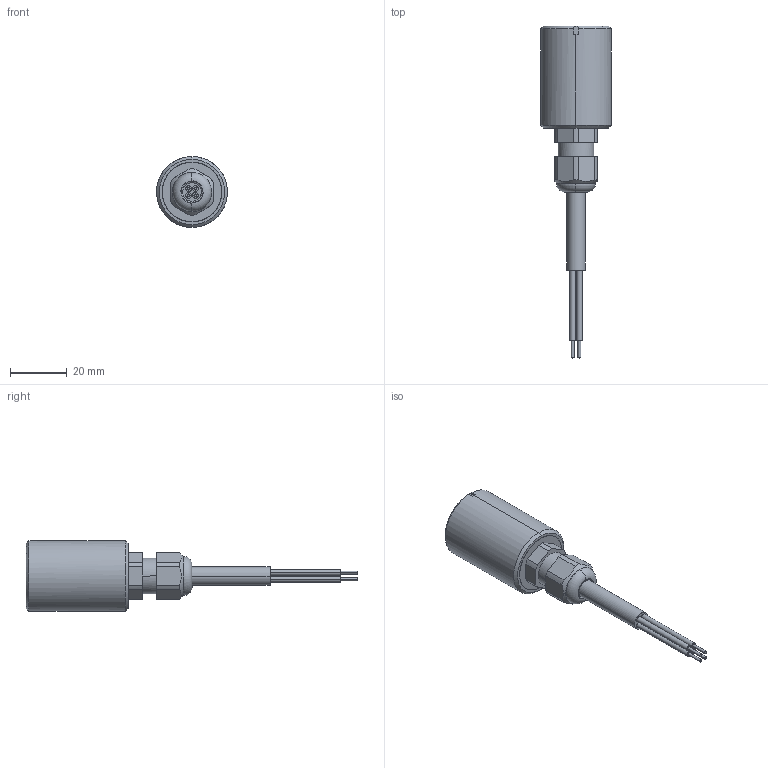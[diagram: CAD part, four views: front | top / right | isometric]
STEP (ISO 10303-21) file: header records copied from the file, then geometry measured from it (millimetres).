
FILE_DESCRIPTION (( 'STEP AP214' ), '1' );
FILE_NAME ('N250_N251_N255_N256.STEP', '2025-06-12T13:47:57', ( '' ), ( '' ), 'SwSTEP 2.0', 'SolidWorks 2025', '' );
FILE_SCHEMA (( 'AUTOMOTIVE_DESIGN' ));
Length unit declared in the file: millimetre
Products named in the file (11): N250_N251_N255_N256; CAVO PER SENSORI IN 3D DIAM 6.5-7; corpo5; CAVO PER SENSORI IN 3D DIAM 6.5-6; tappo5; CAVO PER SENSORI IN 3D DIAM 6.5-5; CAVO PER SENSORI IN 3D DIAM 6.5-3; CAVO PER SENSORI IN 3D DIAM 6.5; CAVO PER SENSORI IN 3D DIAM 6.5-4; pressa5; CAVO PER SENSORI IN 3D DIAM 6.5-2
Assembly tree (13 placements, depth 3):
  N250_N251_N255_N256
    corpo5
    pressa5
    CAVO PER SENSORI IN 3D DIAM 6.5
      CAVO PER SENSORI IN 3D DIAM 6.5-2  x4
      CAVO PER SENSORI IN 3D DIAM 6.5-3
      CAVO PER SENSORI IN 3D DIAM 6.5-4
      CAVO PER SENSORI IN 3D DIAM 6.5-5
      CAVO PER SENSORI IN 3D DIAM 6.5-6
      CAVO PER SENSORI IN 3D DIAM 6.5-7
    tappo5
Bounding box: 24.99 x 117 x 25 mm (x, y, z)
Volume: 23033.8 mm3; surface area: 8657.8 mm2
Topology: 12 solids, 12 shells, 141 faces, 321 edges, 211 vertices
Faces by surface type: plane 81, cylinder 26, bspline 24, torus 6, cone 4
Entity records: 5752 total; most frequent: CARTESIAN_POINT 2886, ORIENTED_EDGE 606, DIRECTION 344, EDGE_CURVE 303, VERTEX_POINT 199, B_SPLINE_CURVE_WITH_KNOTS 154, EDGE_LOOP 140, AXIS2_PLACEMENT_3D 130
